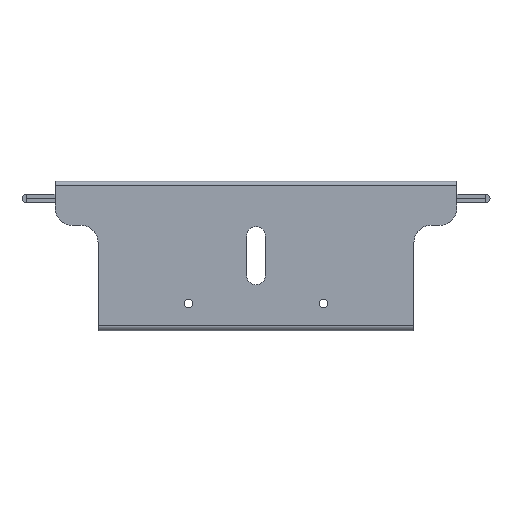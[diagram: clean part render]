
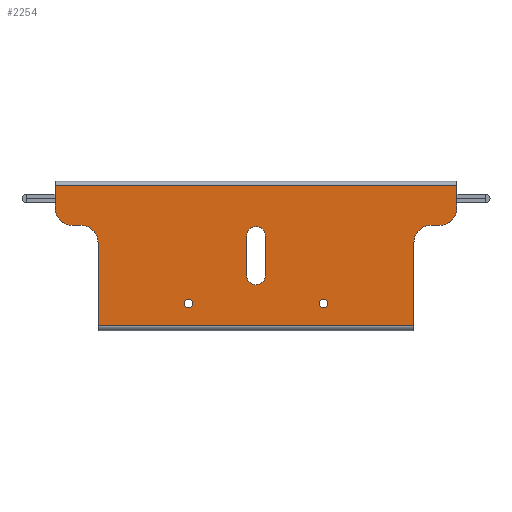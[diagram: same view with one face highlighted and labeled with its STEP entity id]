
A CAD part, front view. The second image highlights one B-rep face of the part: STEP entity #2254.
In plain terms, the highlighted planar face has unit normal (0, -1, 0).
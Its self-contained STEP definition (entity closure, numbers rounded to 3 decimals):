
#587=DIRECTION('',(1.,0.,0.));
#588=VECTOR('',#587,140.);
#589=CARTESIAN_POINT('',(-70.,0.,30.5));
#590=LINE('',#589,#588);
#680=DIRECTION('',(0.,0.,1.));
#681=VECTOR('',#680,13.7);
#682=CARTESIAN_POINT('',(3.25,0.,-0.75));
#683=LINE('',#682,#681);
#684=CARTESIAN_POINT('',(0.,0.,12.95));
#685=DIRECTION('',(0.,1.,0.));
#686=DIRECTION('',(-1.,0.,0.));
#687=AXIS2_PLACEMENT_3D('',#684,#685,#686);
#689=DIRECTION('',(0.,0.,-1.));
#690=VECTOR('',#689,13.7);
#691=CARTESIAN_POINT('',(-3.25,0.,12.95));
#692=LINE('',#691,#690);
#693=CARTESIAN_POINT('',(0.,0.,-0.75));
#694=DIRECTION('',(0.,1.,0.));
#695=DIRECTION('',(1.,0.,0.));
#696=AXIS2_PLACEMENT_3D('',#693,#694,#695);
#698=CARTESIAN_POINT('',(-23.5,0.,-10.5));
#699=DIRECTION('',(0.,1.,0.));
#700=DIRECTION('',(-1.,0.,0.));
#701=AXIS2_PLACEMENT_3D('',#698,#699,#700);
#703=CARTESIAN_POINT('',(-23.5,0.,-10.5));
#704=DIRECTION('',(0.,1.,0.));
#705=DIRECTION('',(1.,0.,0.));
#706=AXIS2_PLACEMENT_3D('',#703,#704,#705);
#708=CARTESIAN_POINT('',(23.5,0.,-10.5));
#709=DIRECTION('',(0.,1.,0.));
#710=DIRECTION('',(-1.,0.,0.));
#711=AXIS2_PLACEMENT_3D('',#708,#709,#710);
#713=CARTESIAN_POINT('',(23.5,0.,-10.5));
#714=DIRECTION('',(0.,1.,0.));
#715=DIRECTION('',(1.,0.,0.));
#716=AXIS2_PLACEMENT_3D('',#713,#714,#715);
#718=CARTESIAN_POINT('',(-64.,0.,22.7));
#719=DIRECTION('',(0.,-1.,0.));
#720=DIRECTION('',(-1.,0.,0.));
#721=AXIS2_PLACEMENT_3D('',#718,#719,#720);
#723=DIRECTION('',(0.,0.,-1.));
#724=VECTOR('',#723,7.8);
#725=CARTESIAN_POINT('',(70.,0.,30.5));
#726=LINE('',#725,#724);
#727=CARTESIAN_POINT('',(64.,0.,22.7));
#728=DIRECTION('',(0.,-1.,0.));
#729=DIRECTION('',(0.,0.,-1.));
#730=AXIS2_PLACEMENT_3D('',#727,#728,#729);
#732=DIRECTION('',(-1.,0.,0.));
#733=VECTOR('',#732,3.);
#734=CARTESIAN_POINT('',(64.,0.,16.7));
#735=LINE('',#734,#733);
#736=DIRECTION('',(0.,0.,-1.));
#737=VECTOR('',#736,29.);
#738=CARTESIAN_POINT('',(55.,0.,10.7));
#739=LINE('',#738,#737);
#740=DIRECTION('',(0.,0.,1.));
#741=VECTOR('',#740,29.);
#742=CARTESIAN_POINT('',(-55.,0.,-18.3));
#743=LINE('',#742,#741);
#744=DIRECTION('',(-1.,0.,0.));
#745=VECTOR('',#744,3.);
#746=CARTESIAN_POINT('',(-61.,0.,16.7));
#747=LINE('',#746,#745);
#784=DIRECTION('',(0.,0.,-1.));
#785=VECTOR('',#784,7.8);
#786=CARTESIAN_POINT('',(-70.,0.,30.5));
#787=LINE('',#786,#785);
#835=CARTESIAN_POINT('',(-61.,0.,10.7));
#836=DIRECTION('',(0.,1.,0.));
#837=DIRECTION('',(0.,0.,1.));
#838=AXIS2_PLACEMENT_3D('',#835,#836,#837);
#861=DIRECTION('',(-1.,0.,0.));
#862=VECTOR('',#861,110.);
#863=CARTESIAN_POINT('',(55.,0.,-18.3));
#864=LINE('',#863,#862);
#913=CARTESIAN_POINT('',(61.,0.,10.7));
#914=DIRECTION('',(0.,1.,0.));
#915=DIRECTION('',(-1.,0.,0.));
#916=AXIS2_PLACEMENT_3D('',#913,#914,#915);
#1026=CARTESIAN_POINT('',(3.25,0.,-0.75));
#1027=CARTESIAN_POINT('',(3.25,0.,12.95));
#1028=VERTEX_POINT('',#1026);
#1029=VERTEX_POINT('',#1027);
#1030=CARTESIAN_POINT('',(-3.25,0.,12.95));
#1031=VERTEX_POINT('',#1030);
#1032=CARTESIAN_POINT('',(-3.25,0.,-0.75));
#1033=VERTEX_POINT('',#1032);
#1042=CARTESIAN_POINT('',(-25.,0.,-10.5));
#1043=CARTESIAN_POINT('',(-22.,0.,-10.5));
#1044=VERTEX_POINT('',#1042);
#1045=VERTEX_POINT('',#1043);
#1050=CARTESIAN_POINT('',(22.,0.,-10.5));
#1051=CARTESIAN_POINT('',(25.,0.,-10.5));
#1052=VERTEX_POINT('',#1050);
#1053=VERTEX_POINT('',#1051);
#1062=CARTESIAN_POINT('',(-55.,0.,-18.3));
#1063=VERTEX_POINT('',#1062);
#1064=CARTESIAN_POINT('',(55.,0.,-18.3));
#1065=VERTEX_POINT('',#1064);
#1078=CARTESIAN_POINT('',(70.,0.,30.5));
#1079=VERTEX_POINT('',#1078);
#1080=CARTESIAN_POINT('',(-70.,0.,30.5));
#1081=VERTEX_POINT('',#1080);
#1135=CARTESIAN_POINT('',(61.,0.,16.7));
#1137=VERTEX_POINT('',#1135);
#1139=CARTESIAN_POINT('',(55.,0.,10.7));
#1141=VERTEX_POINT('',#1139);
#1143=CARTESIAN_POINT('',(-55.,0.,10.7));
#1145=VERTEX_POINT('',#1143);
#1147=CARTESIAN_POINT('',(-61.,0.,16.7));
#1149=VERTEX_POINT('',#1147);
#1154=CARTESIAN_POINT('',(-70.,0.,22.7));
#1155=VERTEX_POINT('',#1154);
#1156=CARTESIAN_POINT('',(-64.,0.,16.7));
#1157=VERTEX_POINT('',#1156);
#1162=CARTESIAN_POINT('',(64.,0.,16.7));
#1163=VERTEX_POINT('',#1162);
#1164=CARTESIAN_POINT('',(70.,0.,22.7));
#1165=VERTEX_POINT('',#1164);
#2205=CARTESIAN_POINT('',(0.,0.,0.));
#2206=DIRECTION('',(0.,1.,0.));
#2207=DIRECTION('',(1.,0.,0.));
#2208=AXIS2_PLACEMENT_3D('',#2205,#2206,#2207);
#2209=PLANE('',#2208);
#2211=ORIENTED_EDGE('',*,*,#2210,.F.);
#2213=ORIENTED_EDGE('',*,*,#2212,.F.);
#2214=ORIENTED_EDGE('',*,*,#2090,.T.);
#2215=ORIENTED_EDGE('',*,*,#2116,.T.);
#2216=ORIENTED_EDGE('',*,*,#2133,.F.);
#2218=ORIENTED_EDGE('',*,*,#2217,.T.);
#2220=ORIENTED_EDGE('',*,*,#2219,.F.);
#2222=ORIENTED_EDGE('',*,*,#2221,.T.);
#2224=ORIENTED_EDGE('',*,*,#2223,.T.);
#2226=ORIENTED_EDGE('',*,*,#2225,.T.);
#2228=ORIENTED_EDGE('',*,*,#2227,.F.);
#2230=ORIENTED_EDGE('',*,*,#2229,.T.);
#2231=EDGE_LOOP('',(#2211,#2213,#2214,#2215,#2216,#2218,#2220,#2222,#2224,#2226,
#2228,#2230));
#2232=FACE_OUTER_BOUND('',#2231,.F.);
#2234=ORIENTED_EDGE('',*,*,#2233,.F.);
#2236=ORIENTED_EDGE('',*,*,#2235,.F.);
#2237=EDGE_LOOP('',(#2234,#2236));
#2238=FACE_BOUND('',#2237,.F.);
#2240=ORIENTED_EDGE('',*,*,#2239,.F.);
#2242=ORIENTED_EDGE('',*,*,#2241,.F.);
#2243=EDGE_LOOP('',(#2240,#2242));
#2244=FACE_BOUND('',#2243,.F.);
#2245=ORIENTED_EDGE('',*,*,#2195,.T.);
#2247=ORIENTED_EDGE('',*,*,#2246,.F.);
#2249=ORIENTED_EDGE('',*,*,#2248,.T.);
#2251=ORIENTED_EDGE('',*,*,#2250,.F.);
#2252=EDGE_LOOP('',(#2245,#2247,#2249,#2251));
#2253=FACE_BOUND('',#2252,.F.);
#688=CIRCLE('',#687,3.25);
#697=CIRCLE('',#696,3.25);
#702=CIRCLE('',#701,1.5);
#707=CIRCLE('',#706,1.5);
#712=CIRCLE('',#711,1.5);
#717=CIRCLE('',#716,1.5);
#722=CIRCLE('',#721,6.);
#731=CIRCLE('',#730,6.);
#839=CIRCLE('',#838,6.);
#917=CIRCLE('',#916,6.);
#2090=EDGE_CURVE('',#1081,#1079,#590,.T.);
#2116=EDGE_CURVE('',#1079,#1165,#726,.T.);
#2133=EDGE_CURVE('',#1163,#1165,#731,.T.);
#2195=EDGE_CURVE('',#1028,#1029,#683,.T.);
#2210=EDGE_CURVE('',#1155,#1157,#722,.T.);
#2212=EDGE_CURVE('',#1081,#1155,#787,.T.);
#2217=EDGE_CURVE('',#1163,#1137,#735,.T.);
#2219=EDGE_CURVE('',#1141,#1137,#917,.T.);
#2221=EDGE_CURVE('',#1141,#1065,#739,.T.);
#2223=EDGE_CURVE('',#1065,#1063,#864,.T.);
#2225=EDGE_CURVE('',#1063,#1145,#743,.T.);
#2227=EDGE_CURVE('',#1149,#1145,#839,.T.);
#2229=EDGE_CURVE('',#1149,#1157,#747,.T.);
#2233=EDGE_CURVE('',#1044,#1045,#702,.T.);
#2235=EDGE_CURVE('',#1045,#1044,#707,.T.);
#2239=EDGE_CURVE('',#1052,#1053,#712,.T.);
#2241=EDGE_CURVE('',#1053,#1052,#717,.T.);
#2246=EDGE_CURVE('',#1031,#1029,#688,.T.);
#2248=EDGE_CURVE('',#1031,#1033,#692,.T.);
#2250=EDGE_CURVE('',#1028,#1033,#697,.T.);
#2254=ADVANCED_FACE('',(#2232,#2238,#2244,#2253),#2209,.F.);
